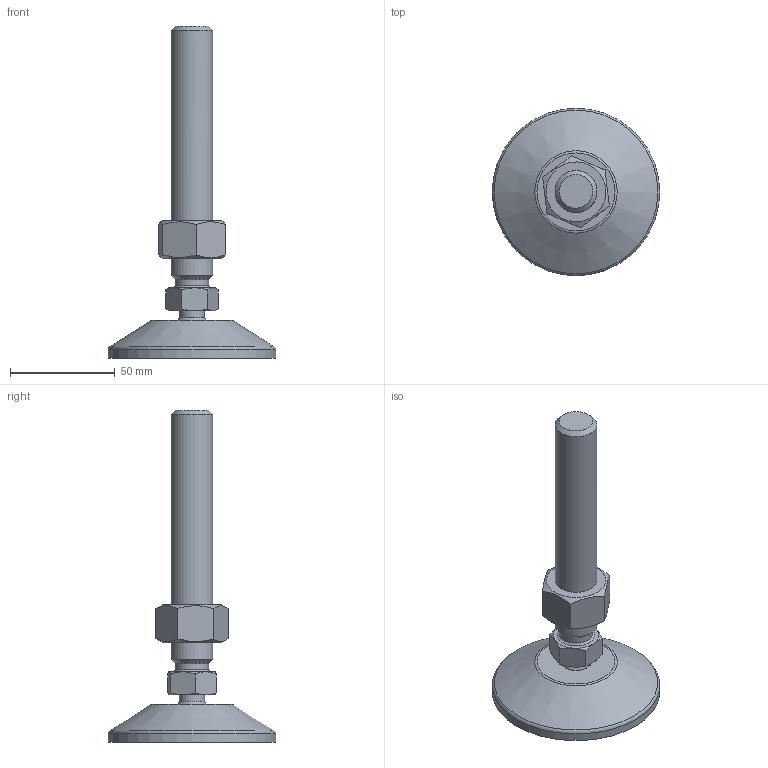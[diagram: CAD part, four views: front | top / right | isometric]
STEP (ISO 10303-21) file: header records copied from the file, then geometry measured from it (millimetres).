
FILE_DESCRIPTION(('STEP AP203'), '1');
FILE_NAME('栖闉罻', '', ('UNSPECIFIED'), ('UNSPECIFIED'), 'C3D Converter', 'C3D Toolkit', '');
FILE_SCHEMA(('CONFIG_CONTROL_DESIGN'));
Length unit declared in the file: millimetre
Products named in the file (4): A00020.120100; A00015.1080
Assembly tree (3 placements, depth 3):
  (unnamed)
    A00020.120100
      (unnamed)
    A00015.1080
Bounding box: 80 x 80 x 158.5 mm (x, y, z)
Volume: 89078 mm3; surface area: 28104.9 mm2
Topology: 2 solids, 2 shells, 188 faces, 479 edges, 318 vertices
Faces by surface type: plane 95, cylinder 58, cone 19, torus 14, sphere 2
Full cylindrical faces by diameter (mm): 4 x8, 12 x1, 14.3 x1, 15 x2, 15.5 x1, 16 x1, 20 x2, 69.3 x1, 80 x1
Entity records: 9490 total; most frequent: CARTESIAN_POINT 3353, DIRECTION 940, ORIENTED_EDGE 886, EDGE_CURVE 443, AXIS2_PLACEMENT_3D 376, VERTEX_POINT 316, EDGE_LOOP 243, FACE_BOUND 209
